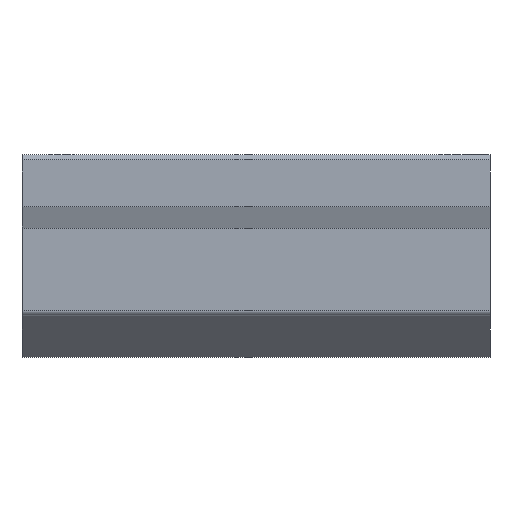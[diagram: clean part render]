
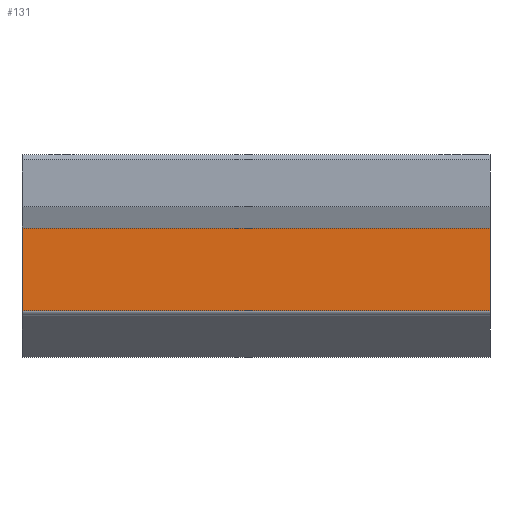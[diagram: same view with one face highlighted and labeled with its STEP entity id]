
A CAD part, front view. The second image highlights one B-rep face of the part: STEP entity #131.
In plain terms, the highlighted planar face has unit normal (0, -1, 0).
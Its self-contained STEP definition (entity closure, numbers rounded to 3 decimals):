
#131 = ADVANCED_FACE( '', ( #284 ), #285, .T. );
#284 = FACE_OUTER_BOUND( '', #447, .T. );
#285 = PLANE( '', #448 );
#447 = EDGE_LOOP( '', ( #739, #740, #741, #742 ) );
#448 = AXIS2_PLACEMENT_3D( '', #743, #744, #745 );
#739 = ORIENTED_EDGE( '', *, *, #964, .T. );
#740 = ORIENTED_EDGE( '', *, *, #965, .T. );
#741 = ORIENTED_EDGE( '', *, *, #926, .T. );
#742 = ORIENTED_EDGE( '', *, *, #932, .F. );
#743 = CARTESIAN_POINT( '', ( 0., -48., -20. ) );
#744 = DIRECTION( '', ( 0., -1., 0. ) );
#745 = DIRECTION( '', ( 0., 0., -1. ) );
#926 = EDGE_CURVE( '', #1115, #1113, #1116, .T. );
#932 = EDGE_CURVE( '', #1122, #1113, #1124, .T. );
#964 = EDGE_CURVE( '', #1122, #1167, #1168, .T. );
#965 = EDGE_CURVE( '', #1167, #1115, #1169, .F. );
#1113 = VERTEX_POINT( '', #1362 );
#1115 = VERTEX_POINT( '', #1365 );
#1116 = LINE( '', #1366, #1367 );
#1122 = VERTEX_POINT( '', #1375 );
#1124 = LINE( '', #1378, #1379 );
#1167 = VERTEX_POINT( '', #1432 );
#1168 = LINE( '', #1433, #1434 );
#1169 = LINE( '', #1435, #1436 );
#1362 = CARTESIAN_POINT( '', ( 180., -48., 11.758 ) );
#1365 = CARTESIAN_POINT( '', ( 180., -48., -20. ) );
#1366 = CARTESIAN_POINT( '', ( 180., -48., 11.758 ) );
#1367 = VECTOR( '', #1559, 1000. );
#1375 = CARTESIAN_POINT( '', ( 0., -48., 11.758 ) );
#1378 = CARTESIAN_POINT( '', ( 0., -48., 11.758 ) );
#1379 = VECTOR( '', #1566, 1000. );
#1432 = CARTESIAN_POINT( '', ( 0., -48., -20. ) );
#1433 = CARTESIAN_POINT( '', ( 0., -48., 11.758 ) );
#1434 = VECTOR( '', #1598, 1000. );
#1435 = CARTESIAN_POINT( '', ( 90., -48., -20. ) );
#1436 = VECTOR( '', #1599, 1000. );
#1559 = DIRECTION( '', ( 0., 0., 1. ) );
#1566 = DIRECTION( '', ( 1., 0., 0. ) );
#1598 = DIRECTION( '', ( 0., 0., -1. ) );
#1599 = DIRECTION( '', ( -1., 0., 0. ) );
